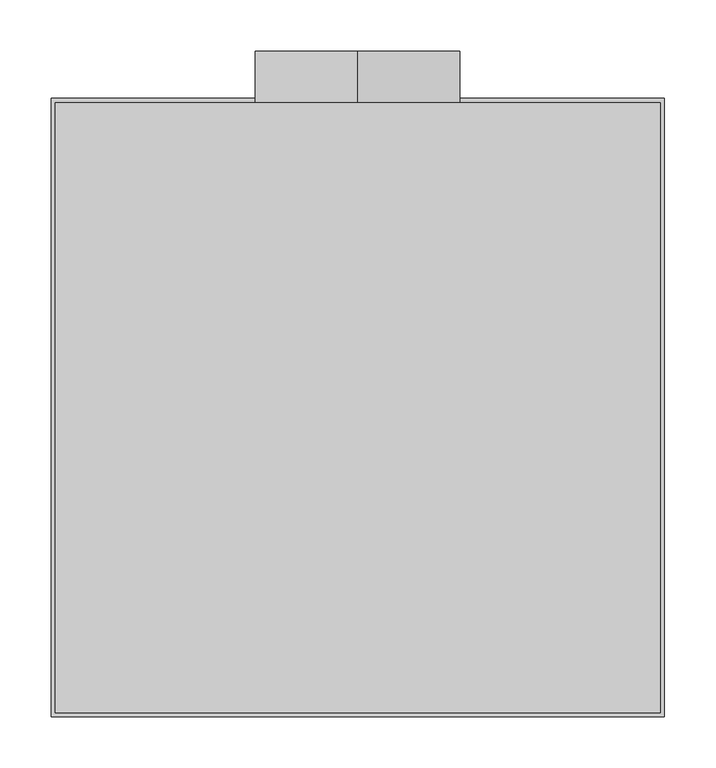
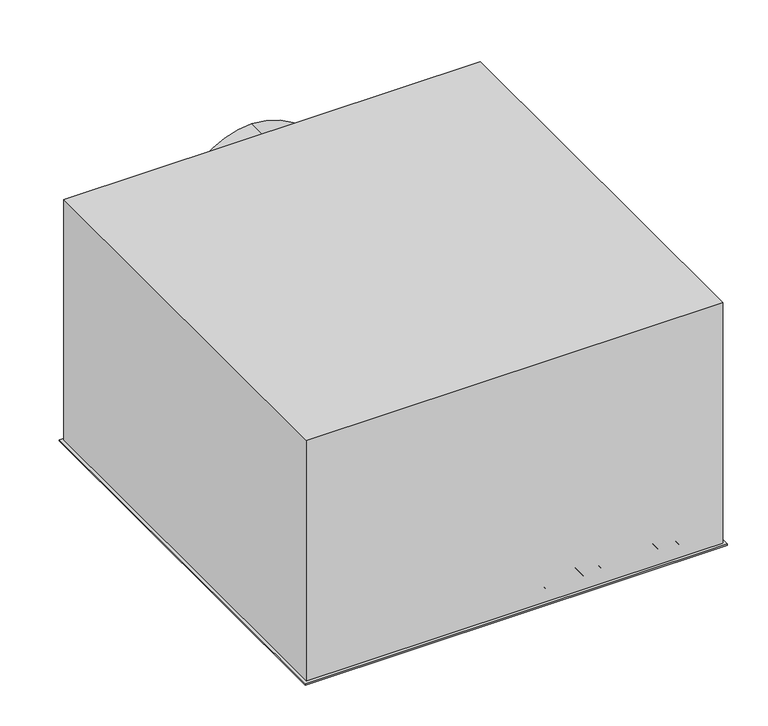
"""IFC4 building model written with IfcOpenShell, lengths in millimetres: air terminal geometry, EOL - plafonnier : EOL-P2-200-600x600."""

from ifc_helpers import new_model, si_unit, point, frame, frame_2d, origin, place, context, project, spatial, polyline, circle_curve, trimmed, segment, composite_curve, outline, extrude, source, transform, mapped, element, save
from ifc_brep_helpers import plane_surface, revolved_surface, advanced_brep


def air_terminal_8d1e7f6b(model_context):
    return source(origin(), model_context, "Body", "SolidModel", [
        extrude(outline(composite_curve([segment(polyline([(1.0, 69.6874144), (2.0025269, 69.6874144)]), True, "CONTINUOUS"), segment(trimmed(circle_curve(frame_2d((31.0266548, 71.7874144)), 29.1), [point((2.0025269, 69.6874144))], [point((26.77286, 43.0))], True, "CARTESIAN"), True, "CONTINUOUS"), segment(polyline([(26.77286, 43.0), (35.0, 43.0), (35.0, 42.0), (26.7, 42.0)]), True, "CONTINUOUS"), segment(trimmed(circle_curve(frame_2d((31.0266548, 71.7874144)), 30.1), [point((26.7, 42.0))], [point((1.0, 69.6874144))], False, "CARTESIAN"), True, "CONTINUOUS")], self_intersect=False)), frame((0.0, 6.1874144, 0.0), z_axis=(0.0, 1.0, 0.0), x_axis=(0.0, 0.0, 1.0)), (0.0, 0.0, 1.0), 572.6251712),
        extrude(outline(composite_curve([segment(polyline([(1.0, 96.6874144), (2.0025269, 96.6874144)]), True, "CONTINUOUS"), segment(trimmed(circle_curve(frame_2d((31.0266548, 98.7874144)), 29.1), [point((2.0025269, 96.6874144))], [point((26.77286, 70.0))], True, "CARTESIAN"), True, "CONTINUOUS"), segment(polyline([(26.77286, 70.0), (35.0, 70.0), (35.0, 69.0), (26.7, 69.0)]), True, "CONTINUOUS"), segment(trimmed(circle_curve(frame_2d((31.0266548, 98.7874144)), 30.1), [point((26.7, 69.0))], [point((1.0, 96.6874144))], False, "CARTESIAN"), True, "CONTINUOUS")], self_intersect=False)), frame((0.0, 6.1874144, 0.0), z_axis=(0.0, 1.0, 0.0), x_axis=(0.0, 0.0, 1.0)), (0.0, 0.0, 1.0), 572.6251712),
        extrude(outline(composite_curve([segment(polyline([(1.0, 123.6874144), (2.0025269, 123.6874144)]), True, "CONTINUOUS"), segment(trimmed(circle_curve(frame_2d((31.0266548, 125.7874144)), 29.1), [point((2.0025269, 123.6874144))], [point((26.77286, 97.0))], True, "CARTESIAN"), True, "CONTINUOUS"), segment(polyline([(26.77286, 97.0), (35.0, 97.0), (35.0, 96.0), (26.7, 96.0)]), True, "CONTINUOUS"), segment(trimmed(circle_curve(frame_2d((31.0266548, 125.7874144)), 30.1), [point((26.7, 96.0))], [point((1.0, 123.6874144))], False, "CARTESIAN"), True, "CONTINUOUS")], self_intersect=False)), frame((0.0, 6.1874144, 0.0), z_axis=(0.0, 1.0, 0.0), x_axis=(0.0, 0.0, 1.0)), (0.0, 0.0, 1.0), 572.6251712),
        extrude(outline(composite_curve([segment(polyline([(1.0, 150.6874144), (2.0025269, 150.6874144)]), True, "CONTINUOUS"), segment(trimmed(circle_curve(frame_2d((31.0266548, 152.7874144)), 29.1), [point((2.0025269, 150.6874144))], [point((26.77286, 124.0))], True, "CARTESIAN"), True, "CONTINUOUS"), segment(polyline([(26.77286, 124.0), (35.0, 124.0), (35.0, 123.0), (26.7, 123.0)]), True, "CONTINUOUS"), segment(trimmed(circle_curve(frame_2d((31.0266548, 152.7874144)), 30.1), [point((26.7, 123.0))], [point((1.0, 150.6874144))], False, "CARTESIAN"), True, "CONTINUOUS")], self_intersect=False)), frame((0.0, 6.1874144, 0.0), z_axis=(0.0, 1.0, 0.0), x_axis=(0.0, 0.0, 1.0)), (0.0, 0.0, 1.0), 572.6251712),
        extrude(outline(composite_curve([segment(polyline([(1.0, 177.6874144), (2.0025269, 177.6874144)]), True, "CONTINUOUS"), segment(trimmed(circle_curve(frame_2d((31.0266548, 179.7874144)), 29.1), [point((2.0025269, 177.6874144))], [point((26.77286, 151.0))], True, "CARTESIAN"), True, "CONTINUOUS"), segment(polyline([(26.77286, 151.0), (35.0, 151.0), (35.0, 150.0), (26.7, 150.0)]), True, "CONTINUOUS"), segment(trimmed(circle_curve(frame_2d((31.0266548, 179.7874144)), 30.1), [point((26.7, 150.0))], [point((1.0, 177.6874144))], False, "CARTESIAN"), True, "CONTINUOUS")], self_intersect=False)), frame((0.0, 6.1874144, 0.0), z_axis=(0.0, 1.0, 0.0), x_axis=(0.0, 0.0, 1.0)), (0.0, 0.0, 1.0), 572.6251712),
        extrude(outline(composite_curve([segment(polyline([(1.0, 204.6874144), (2.0025269, 204.6874144)]), True, "CONTINUOUS"), segment(trimmed(circle_curve(frame_2d((31.0266548, 206.7874144)), 29.1), [point((2.0025269, 204.6874144))], [point((26.77286, 178.0))], True, "CARTESIAN"), True, "CONTINUOUS"), segment(polyline([(26.77286, 178.0), (35.0, 178.0), (35.0, 177.0), (26.7, 177.0)]), True, "CONTINUOUS"), segment(trimmed(circle_curve(frame_2d((31.0266548, 206.7874144)), 30.1), [point((26.7, 177.0))], [point((1.0, 204.6874144))], False, "CARTESIAN"), True, "CONTINUOUS")], self_intersect=False)), frame((0.0, 6.1874144, 0.0), z_axis=(0.0, 1.0, 0.0), x_axis=(0.0, 0.0, 1.0)), (0.0, 0.0, 1.0), 572.6251712),
        extrude(outline(composite_curve([segment(polyline([(1.0, 231.6874144), (2.0025269, 231.6874144)]), True, "CONTINUOUS"), segment(trimmed(circle_curve(frame_2d((31.0266548, 233.7874144)), 29.1), [point((2.0025269, 231.6874144))], [point((26.77286, 205.0))], True, "CARTESIAN"), True, "CONTINUOUS"), segment(polyline([(26.77286, 205.0), (35.0, 205.0), (35.0, 204.0), (26.7, 204.0)]), True, "CONTINUOUS"), segment(trimmed(circle_curve(frame_2d((31.0266548, 233.7874144)), 30.1), [point((26.7, 204.0))], [point((1.0, 231.6874144))], False, "CARTESIAN"), True, "CONTINUOUS")], self_intersect=False)), frame((0.0, 6.1874144, 0.0), z_axis=(0.0, 1.0, 0.0), x_axis=(0.0, 0.0, 1.0)), (0.0, 0.0, 1.0), 572.6251712),
        extrude(outline(composite_curve([segment(polyline([(1.0, 258.6874144), (2.0025269, 258.6874144)]), True, "CONTINUOUS"), segment(trimmed(circle_curve(frame_2d((31.0266548, 260.7874144)), 29.1), [point((2.0025269, 258.6874144))], [point((26.77286, 232.0))], True, "CARTESIAN"), True, "CONTINUOUS"), segment(polyline([(26.77286, 232.0), (35.0, 232.0), (35.0, 231.0), (26.7, 231.0)]), True, "CONTINUOUS"), segment(trimmed(circle_curve(frame_2d((31.0266548, 260.7874144)), 30.1), [point((26.7, 231.0))], [point((1.0, 258.6874144))], False, "CARTESIAN"), True, "CONTINUOUS")], self_intersect=False)), frame((0.0, 6.1874144, 0.0), z_axis=(0.0, 1.0, 0.0), x_axis=(0.0, 0.0, 1.0)), (0.0, 0.0, 1.0), 572.6251712),
        extrude(outline(composite_curve([segment(polyline([(1.0, 285.6874144), (2.0025269, 285.6874144)]), True, "CONTINUOUS"), segment(trimmed(circle_curve(frame_2d((31.0266548, 287.7874144)), 29.1), [point((2.0025269, 285.6874144))], [point((26.77286, 259.0))], True, "CARTESIAN"), True, "CONTINUOUS"), segment(polyline([(26.77286, 259.0), (35.0, 259.0), (35.0, 258.0), (26.7, 258.0)]), True, "CONTINUOUS"), segment(trimmed(circle_curve(frame_2d((31.0266548, 287.7874144)), 30.1), [point((26.7, 258.0))], [point((1.0, 285.6874144))], False, "CARTESIAN"), True, "CONTINUOUS")], self_intersect=False)), frame((0.0, 6.1874144, 0.0), z_axis=(0.0, 1.0, 0.0), x_axis=(0.0, 0.0, 1.0)), (0.0, 0.0, 1.0), 572.6251712),
        extrude(outline(composite_curve([segment(trimmed(circle_curve(frame_2d((31.0266548, -71.7874144)), 30.1), [point((1.0, -69.6874144))], [point((26.7, -42.0))], False, "CARTESIAN"), True, "CONTINUOUS"), segment(polyline([(26.7, -42.0), (35.0, -42.0), (35.0, -43.0), (26.77286, -43.0)]), True, "CONTINUOUS"), segment(trimmed(circle_curve(frame_2d((31.0266548, -71.7874144)), 29.1), [point((26.77286, -43.0))], [point((2.0025269, -69.6874144))], True, "CARTESIAN"), True, "CONTINUOUS"), segment(polyline([(2.0025269, -69.6874144), (1.0, -69.6874144)]), True, "CONTINUOUS")], self_intersect=False)), frame((0.0, 6.1874144, 0.0), z_axis=(0.0, 1.0, 0.0), x_axis=(0.0, 0.0, 1.0)), (0.0, 0.0, 1.0), 572.6251712),
        extrude(outline(composite_curve([segment(trimmed(circle_curve(frame_2d((31.0266548, -98.7874144)), 30.1), [point((1.0, -96.6874144))], [point((26.7, -69.0))], False, "CARTESIAN"), True, "CONTINUOUS"), segment(polyline([(26.7, -69.0), (35.0, -69.0), (35.0, -70.0), (26.77286, -70.0)]), True, "CONTINUOUS"), segment(trimmed(circle_curve(frame_2d((31.0266548, -98.7874144)), 29.1), [point((26.77286, -70.0))], [point((2.0025269, -96.6874144))], True, "CARTESIAN"), True, "CONTINUOUS"), segment(polyline([(2.0025269, -96.6874144), (1.0, -96.6874144)]), True, "CONTINUOUS")], self_intersect=False)), frame((0.0, 6.1874144, 0.0), z_axis=(0.0, 1.0, 0.0), x_axis=(0.0, 0.0, 1.0)), (0.0, 0.0, 1.0), 572.6251712),
        extrude(outline(composite_curve([segment(trimmed(circle_curve(frame_2d((31.0266548, -125.7874144)), 30.1), [point((1.0, -123.6874144))], [point((26.7, -96.0))], False, "CARTESIAN"), True, "CONTINUOUS"), segment(polyline([(26.7, -96.0), (35.0, -96.0), (35.0, -97.0), (26.77286, -97.0)]), True, "CONTINUOUS"), segment(trimmed(circle_curve(frame_2d((31.0266548, -125.7874144)), 29.1), [point((26.77286, -97.0))], [point((2.0025269, -123.6874144))], True, "CARTESIAN"), True, "CONTINUOUS"), segment(polyline([(2.0025269, -123.6874144), (1.0, -123.6874144)]), True, "CONTINUOUS")], self_intersect=False)), frame((0.0, 6.1874144, 0.0), z_axis=(0.0, 1.0, 0.0), x_axis=(0.0, 0.0, 1.0)), (0.0, 0.0, 1.0), 572.6251712),
        extrude(outline(composite_curve([segment(trimmed(circle_curve(frame_2d((31.0266548, -152.7874144)), 30.1), [point((1.0, -150.6874144))], [point((26.7, -123.0))], False, "CARTESIAN"), True, "CONTINUOUS"), segment(polyline([(26.7, -123.0), (35.0, -123.0), (35.0, -124.0), (26.77286, -124.0)]), True, "CONTINUOUS"), segment(trimmed(circle_curve(frame_2d((31.0266548, -152.7874144)), 29.1), [point((26.77286, -124.0))], [point((2.0025269, -150.6874144))], True, "CARTESIAN"), True, "CONTINUOUS"), segment(polyline([(2.0025269, -150.6874144), (1.0, -150.6874144)]), True, "CONTINUOUS")], self_intersect=False)), frame((0.0, 6.1874144, 0.0), z_axis=(0.0, 1.0, 0.0), x_axis=(0.0, 0.0, 1.0)), (0.0, 0.0, 1.0), 572.6251712),
        extrude(outline(composite_curve([segment(trimmed(circle_curve(frame_2d((31.0266548, -179.7874144)), 30.1), [point((1.0, -177.6874144))], [point((26.7, -150.0))], False, "CARTESIAN"), True, "CONTINUOUS"), segment(polyline([(26.7, -150.0), (35.0, -150.0), (35.0, -151.0), (26.77286, -151.0)]), True, "CONTINUOUS"), segment(trimmed(circle_curve(frame_2d((31.0266548, -179.7874144)), 29.1), [point((26.77286, -151.0))], [point((2.0025269, -177.6874144))], True, "CARTESIAN"), True, "CONTINUOUS"), segment(polyline([(2.0025269, -177.6874144), (1.0, -177.6874144)]), True, "CONTINUOUS")], self_intersect=False)), frame((0.0, 6.1874144, 0.0), z_axis=(0.0, 1.0, 0.0), x_axis=(0.0, 0.0, 1.0)), (0.0, 0.0, 1.0), 572.6251712),
        extrude(outline(composite_curve([segment(trimmed(circle_curve(frame_2d((31.0266548, -206.7874144)), 30.1), [point((1.0, -204.6874144))], [point((26.7, -177.0))], False, "CARTESIAN"), True, "CONTINUOUS"), segment(polyline([(26.7, -177.0), (35.0, -177.0), (35.0, -178.0), (26.77286, -178.0)]), True, "CONTINUOUS"), segment(trimmed(circle_curve(frame_2d((31.0266548, -206.7874144)), 29.1), [point((26.77286, -178.0))], [point((2.0025269, -204.6874144))], True, "CARTESIAN"), True, "CONTINUOUS"), segment(polyline([(2.0025269, -204.6874144), (1.0, -204.6874144)]), True, "CONTINUOUS")], self_intersect=False)), frame((0.0, 6.1874144, 0.0), z_axis=(0.0, 1.0, 0.0), x_axis=(0.0, 0.0, 1.0)), (0.0, 0.0, 1.0), 572.6251712),
        extrude(outline(composite_curve([segment(trimmed(circle_curve(frame_2d((31.0266548, -233.7874144)), 30.1), [point((1.0, -231.6874144))], [point((26.7, -204.0))], False, "CARTESIAN"), True, "CONTINUOUS"), segment(polyline([(26.7, -204.0), (35.0, -204.0), (35.0, -205.0), (26.77286, -205.0)]), True, "CONTINUOUS"), segment(trimmed(circle_curve(frame_2d((31.0266548, -233.7874144)), 29.1), [point((26.77286, -205.0))], [point((2.0025269, -231.6874144))], True, "CARTESIAN"), True, "CONTINUOUS"), segment(polyline([(2.0025269, -231.6874144), (1.0, -231.6874144)]), True, "CONTINUOUS")], self_intersect=False)), frame((0.0, 6.1874144, 0.0), z_axis=(0.0, 1.0, 0.0), x_axis=(0.0, 0.0, 1.0)), (0.0, 0.0, 1.0), 572.6251712),
        extrude(outline(composite_curve([segment(trimmed(circle_curve(frame_2d((31.0266548, -260.7874144)), 30.1), [point((1.0, -258.6874144))], [point((26.7, -231.0))], False, "CARTESIAN"), True, "CONTINUOUS"), segment(polyline([(26.7, -231.0), (35.0, -231.0), (35.0, -232.0), (26.77286, -232.0)]), True, "CONTINUOUS"), segment(trimmed(circle_curve(frame_2d((31.0266548, -260.7874144)), 29.1), [point((26.77286, -232.0))], [point((2.0025269, -258.6874144))], True, "CARTESIAN"), True, "CONTINUOUS"), segment(polyline([(2.0025269, -258.6874144), (1.0, -258.6874144)]), True, "CONTINUOUS")], self_intersect=False)), frame((0.0, 6.1874144, 0.0), z_axis=(0.0, 1.0, 0.0), x_axis=(0.0, 0.0, 1.0)), (0.0, 0.0, 1.0), 572.6251712),
        extrude(outline(polyline([(42.0, 578.8125856), (42.0, 6.1874144), (-42.0, 6.1874144), (-42.0, 578.8125856), (42.0, 578.8125856)])), frame((0.0, 0.0, 1.0), z_axis=(0.0, 0.0, 1.0), x_axis=(1.0, 0.0, 0.0)), (0.0, 0.0, 1.0), 1.0025269),
        extrude(outline(composite_curve([segment(trimmed(circle_curve(frame_2d((31.0266548, -287.7874144)), 30.1), [point((1.0, -285.6874144))], [point((26.7, -258.0))], False, "CARTESIAN"), True, "CONTINUOUS"), segment(polyline([(26.7, -258.0), (35.0, -258.0), (35.0, -259.0), (26.77286, -259.0)]), True, "CONTINUOUS"), segment(trimmed(circle_curve(frame_2d((31.0266548, -287.7874144)), 29.1), [point((26.77286, -259.0))], [point((2.0025269, -285.6874144))], True, "CARTESIAN"), True, "CONTINUOUS"), segment(polyline([(2.0025269, -285.6874144), (1.0, -285.6874144)]), True, "CONTINUOUS")], self_intersect=False)), frame((0.0, 6.1874144, 0.0), z_axis=(0.0, 1.0, 0.0), x_axis=(0.0, 0.0, 1.0)), (0.0, 0.0, 1.0), 572.6251712),
        extrude(outline(polyline([(299.0, 594.0), (299.0, -9.0), (-299.0, -9.0), (-299.0, 594.0), (299.0, 594.0)]), holes=[polyline([(290.0, 585.0), (-290.0, 585.0), (-290.0, 0.0), (290.0, 0.0), (290.0, 585.0)])]), frame((0.0, 0.0, -2.0), z_axis=(0.0, 0.0, 1.0), x_axis=(1.0, 0.0, 0.0)), (0.0, 0.0, 1.0), 2.0),
        extrude(outline(composite_curve([segment(trimmed(circle_curve(frame_2d((241.0, 0.0)), 100.0), [point((141.0, 0.0))], [point((341.0, 0.0))], False, "CARTESIAN"), True, "CONTINUOUS"), segment(trimmed(circle_curve(frame_2d((241.0, 0.0)), 100.0), [point((341.0, 0.0))], [point((141.0, 0.0))], False, "CARTESIAN"), True, "CONTINUOUS")], self_intersect=False), holes=[composite_curve([segment(trimmed(circle_curve(frame_2d((241.0, 0.0)), 99.0), [point((241.0, 99.0))], [point((241.0, -99.0))], True, "CARTESIAN"), True, "CONTINUOUS"), segment(trimmed(circle_curve(frame_2d((241.0, 0.0)), 99.0), [point((241.0, -99.0))], [point((241.0, 99.0))], True, "CARTESIAN"), True, "CONTINUOUS")], self_intersect=False)]), frame((0.0, 590.0, 0.0), z_axis=(0.0, 1.0, 0.0), x_axis=(0.0, 0.0, 1.0)), (0.0, 0.0, 1.0), 50.0),
        advanced_brep(
        [(295.0, 590.0, 361.0), (-295.0, 590.0, 361.0), (-295.0, -5.0, 361.0), (295.0, -5.0, 361.0), (295.0, 590.0, 0.0), (295.0, -5.0, 0.0), (-295.0, -5.0, 0.0), (-295.0, 590.0, 0.0), (290.0, 585.0, 0.0), (-290.0, 585.0, 0.0), (-290.0, 0.0, 0.0), (290.0, 0.0, 0.0), (-99.0, 590.0, 241.0), (99.0, 590.0, 241.0), (290.0, 585.0, 356.0), (290.0, 0.0, 356.0), (-290.0, 0.0, 356.0), (-290.0, 585.0, 356.0), (99.0, 585.0, 241.0), (-99.0, 585.0, 241.0)],
        [
            (0, 1),
            (1, 2),
            (2, 3),
            (3, 0),
            (4, 5),
            (5, 6),
            (6, 7),
            (7, 4),
            (8, 9),
            (9, 10),
            (10, 11),
            (11, 8),
            (0, 4),
            (7, 1),
            (12, 13, circle_curve(frame((0.0, 590.0, 241.0), z_axis=(0.0, -1.0, 0.0), x_axis=(1.0, 0.0, 0.0)), 99.0)),
            (13, 12, circle_curve(frame((0.0, 590.0, 241.0), z_axis=(0.0, -1.0, 0.0), x_axis=(1.0, 0.0, 0.0)), 99.0)),
            (6, 2),
            (5, 3),
            (14, 15),
            (15, 16),
            (16, 17),
            (17, 14),
            (17, 9),
            (8, 14),
            (18, 19, circle_curve(frame((0.0, 585.0, 241.0), z_axis=(0.0, 1.0, 0.0), x_axis=(1.0, 0.0, 0.0)), 99.0)),
            (19, 18, circle_curve(frame((0.0, 585.0, 241.0), z_axis=(0.0, 1.0, 0.0), x_axis=(1.0, 0.0, 0.0)), 99.0)),
            (16, 10),
            (15, 11),
            (12, 19),
            (18, 13),
        ],
        [
            plane_surface(frame((-295.0, 590.0, 361.0), z_axis=(0.0, 0.0, 1.0), x_axis=(-1.0, 0.0, 0.0))),
            plane_surface(frame((-295.0, 590.0, 0.0), z_axis=(0.0, 0.0, -1.0), x_axis=(1.0, 0.0, 0.0))),
            plane_surface(frame((295.0, 590.0, 361.0), z_axis=(0.0, 1.0, 0.0), x_axis=(0.0, 0.0, -1.0))),
            plane_surface(frame((-295.0, 590.0, 361.0), z_axis=(-1.0, 0.0, 0.0), x_axis=(0.0, 0.0, -1.0))),
            plane_surface(frame((-295.0, -5.0, 361.0), z_axis=(0.0, -1.0, 0.0), x_axis=(0.0, 0.0, -1.0))),
            plane_surface(frame((295.0, -5.0, 361.0), z_axis=(1.0, 0.0, 0.0), x_axis=(0.0, 0.0, -1.0))),
            plane_surface(frame((-290.0, 585.0, 356.0), z_axis=(0.0, 0.0, -1.0), x_axis=(-1.0, 0.0, 0.0))),
            plane_surface(frame((290.0, 585.0, 356.0), z_axis=(0.0, -1.0, 0.0), x_axis=(0.0, 0.0, -1.0))),
            plane_surface(frame((-290.0, 585.0, 356.0), z_axis=(1.0, 0.0, 0.0), x_axis=(0.0, 0.0, -1.0))),
            plane_surface(frame((-290.0, 0.0, 356.0), z_axis=(0.0, 1.0, 0.0), x_axis=(0.0, 0.0, -1.0))),
            plane_surface(frame((290.0, 0.0, 356.0), z_axis=(-1.0, 0.0, 0.0), x_axis=(0.0, 0.0, -1.0))),
            revolved_surface(polyline([(99.0, 585.0, 241.0), (99.0, 590.0, 241.0)]), (0.0, 640.0, 241.0), (0.0, -1.0, 0.0)),
        ],
        [
            (0, [[1, 2, 3, 4]]),
            (1, [[5, 6, 7, 8], [9, 10, 11, 12]]),
            (2, [[-1, 13, -8, 14], [15, 16]]),
            (3, [[-2, -14, -7, 17]]),
            (4, [[-3, -17, -6, 18]]),
            (5, [[-4, -18, -5, -13]]),
            (6, [[19, 20, 21, 22]]),
            (7, [[-22, 23, -9, 24], [25, 26]]),
            (8, [[-21, 27, -10, -23]]),
            (9, [[-20, 28, -11, -27]]),
            (10, [[-19, -24, -12, -28]]),
            (11, [[29, -25, 30, -15]]),
            (11, [[-29, -16, -30, -26]]),
        ],
    ),
    ])


if __name__ == "__main__":
    model = new_model("IFC4")
    model_context = context("Model", 3, world=origin())
    ifc_project = project(units=[si_unit("LENGTHUNIT", "METRE", prefix="MILLI")], contexts=[model_context])
    site = spatial("IfcSite", under=ifc_project)
    building = spatial("IfcBuilding", under=site)
    placement = place(None, origin())
    air_terminal_shape = air_terminal_8d1e7f6b(model_context)
    element("IfcAirTerminal", 1, ObjectType="EOL - plafonnier : EOL-P2-200-600x600", at=placement, inside=building, context=model_context, shape_type="MappedRepresentation", body=[
        mapped(air_terminal_shape, transform((0.0, 0.0, 0.0), x_axis=(1.0, 0.0, 0.0), y_axis=(0.0, 1.0, 0.0), z_axis=(0.0, 0.0, 1.0))),
    ])
    save(model, "model.ifc")
